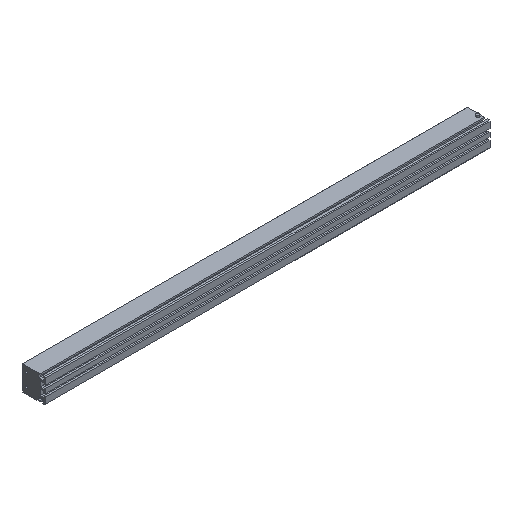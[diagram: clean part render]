
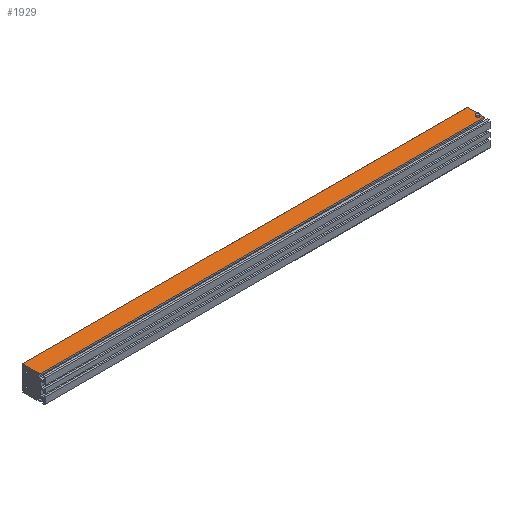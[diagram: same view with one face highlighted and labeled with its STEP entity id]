
A CAD part, isometric view. The second image highlights one B-rep face of the part: STEP entity #1929.
In plain terms, the highlighted planar face has unit normal (0, 0, 1).
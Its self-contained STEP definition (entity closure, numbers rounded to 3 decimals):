
#32 = CARTESIAN_POINT ( 'NONE',  ( 0., 26.7, 0. ) ) ;
#39 = CARTESIAN_POINT ( 'NONE',  ( 520., 26.7, 0. ) ) ;
#123 = EDGE_CURVE ( 'NONE', #668, #1744, #1750, .T. ) ;
#131 = CARTESIAN_POINT ( 'NONE',  ( 0., 6.6, 0. ) ) ;
#187 = ORIENTED_EDGE ( 'NONE', *, *, #1873, .T. ) ;
#221 = CARTESIAN_POINT ( 'NONE',  ( 0., 0., 0. ) ) ;
#230 = FACE_OUTER_BOUND ( 'NONE', #721, .T. ) ;
#232 = VECTOR ( 'NONE', #1915, 1000. ) ;
#233 = CARTESIAN_POINT ( 'NONE',  ( 519., 11.392, 0. ) ) ;
#284 = ORIENTED_EDGE ( 'NONE', *, *, #1786, .T. ) ;
#321 = CARTESIAN_POINT ( 'NONE',  ( 520., 6.6, 0. ) ) ;
#369 = VECTOR ( 'NONE', #702, 1000. ) ;
#429 = AXIS2_PLACEMENT_3D ( 'NONE', #1956, #544, #669 ) ;
#493 = CARTESIAN_POINT ( 'NONE',  ( 515.3, 11.392, 0. ) ) ;
#523 = PLANE ( 'NONE',  #1588 ) ;
#544 = DIRECTION ( 'NONE',  ( 0., 0., 1. ) ) ;
#667 = ORIENTED_EDGE ( 'NONE', *, *, #1185, .F. ) ;
#668 = VERTEX_POINT ( 'NONE', #233 ) ;
#669 = DIRECTION ( 'NONE',  ( -1., 0., 0. ) ) ;
#677 = DIRECTION ( 'NONE',  ( -1., 0., 0. ) ) ;
#701 = DIRECTION ( 'NONE',  ( -1., 0., 0. ) ) ;
#702 = DIRECTION ( 'NONE',  ( 0., -1., 0. ) ) ;
#721 = EDGE_LOOP ( 'NONE', ( #1643, #284, #187, #1255 ) ) ;
#798 = CARTESIAN_POINT ( 'NONE',  ( 520., 0., 0. ) ) ;
#826 = CARTESIAN_POINT ( 'NONE',  ( 520., 26.7, 0. ) ) ;
#924 = VERTEX_POINT ( 'NONE', #39 ) ;
#942 = AXIS2_PLACEMENT_3D ( 'NONE', #1025, #1007, #701 ) ;
#975 = VERTEX_POINT ( 'NONE', #321 ) ;
#1007 = DIRECTION ( 'NONE',  ( 0., 0., 1. ) ) ;
#1025 = CARTESIAN_POINT ( 'NONE',  ( 517.15, 11.392, 0. ) ) ;
#1077 = VERTEX_POINT ( 'NONE', #32 ) ;
#1162 = EDGE_LOOP ( 'NONE', ( #667, #1260 ) ) ;
#1185 = EDGE_CURVE ( 'NONE', #1744, #668, #1825, .T. ) ;
#1232 = LINE ( 'NONE', #131, #1297 ) ;
#1255 = ORIENTED_EDGE ( 'NONE', *, *, #1438, .T. ) ;
#1260 = ORIENTED_EDGE ( 'NONE', *, *, #123, .F. ) ;
#1297 = VECTOR ( 'NONE', #1711, 1000. ) ;
#1365 = LINE ( 'NONE', #221, #369 ) ;
#1438 = EDGE_CURVE ( 'NONE', #1667, #975, #1232, .T. ) ;
#1493 = LINE ( 'NONE', #798, #232 ) ;
#1575 = CARTESIAN_POINT ( 'NONE',  ( 0., 6.6, 0. ) ) ;
#1588 = AXIS2_PLACEMENT_3D ( 'NONE', #1976, #1632, #677 ) ;
#1590 = FACE_BOUND ( 'NONE', #1162, .T. ) ;
#1632 = DIRECTION ( 'NONE',  ( 0., 0., -1. ) ) ;
#1643 = ORIENTED_EDGE ( 'NONE', *, *, #1735, .F. ) ;
#1667 = VERTEX_POINT ( 'NONE', #1575 ) ;
#1686 = VECTOR ( 'NONE', #1922, 1000. ) ;
#1711 = DIRECTION ( 'NONE',  ( 1., 0., 0. ) ) ;
#1735 = EDGE_CURVE ( 'NONE', #924, #975, #1493, .T. ) ;
#1744 = VERTEX_POINT ( 'NONE', #493 ) ;
#1750 = CIRCLE ( 'NONE', #429, 1.85 ) ;
#1786 = EDGE_CURVE ( 'NONE', #924, #1077, #1862, .T. ) ;
#1825 = CIRCLE ( 'NONE', #942, 1.85 ) ;
#1862 = LINE ( 'NONE', #826, #1686 ) ;
#1873 = EDGE_CURVE ( 'NONE', #1077, #1667, #1365, .T. ) ;
#1915 = DIRECTION ( 'NONE',  ( 0., -1., 0. ) ) ;
#1922 = DIRECTION ( 'NONE',  ( -1., 0., 0. ) ) ;
#1929 = ADVANCED_FACE ( 'NONE', ( #1590, #230 ), #523, .F. ) ;
#1956 = CARTESIAN_POINT ( 'NONE',  ( 517.15, 11.392, 0. ) ) ;
#1976 = CARTESIAN_POINT ( 'NONE',  ( 520., 0., 0. ) ) ;
